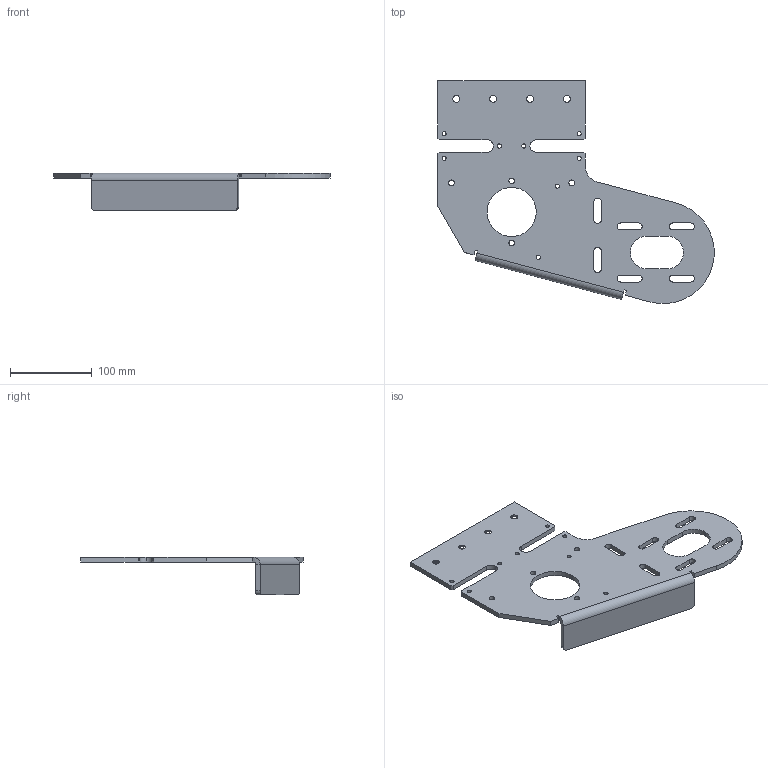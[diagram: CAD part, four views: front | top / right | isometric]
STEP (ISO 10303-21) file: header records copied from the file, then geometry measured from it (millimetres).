
FILE_DESCRIPTION (( 'STEP AP203' ), '1' );
FILE_NAME ('084.802.050.STEP', '2015-02-11T08:30:39', ( '' ), ( '' ), 'SwSTEP 2.0', 'SolidWorks 2012', '' );
FILE_SCHEMA (( 'CONFIG_CONTROL_DESIGN' ));
Length unit declared in the file: millimetre
Products named in the file (1): 084.802.050
Bounding box: 337.24 x 272.33 x 46 mm (x, y, z)
Volume: 341309.8 mm3; surface area: 129240.2 mm2
Topology: 1 solids, 1 shells, 116 faces, 326 edges, 212 vertices
Faces by surface type: cylinder 62, plane 46, cone 8
Entity records: 3947 total; most frequent: DIRECTION 692, CARTESIAN_POINT 655, ORIENTED_EDGE 652, EDGE_CURVE 326, AXIS2_PLACEMENT_3D 249, VERTEX_POINT 212, VECTOR 194, LINE 194
